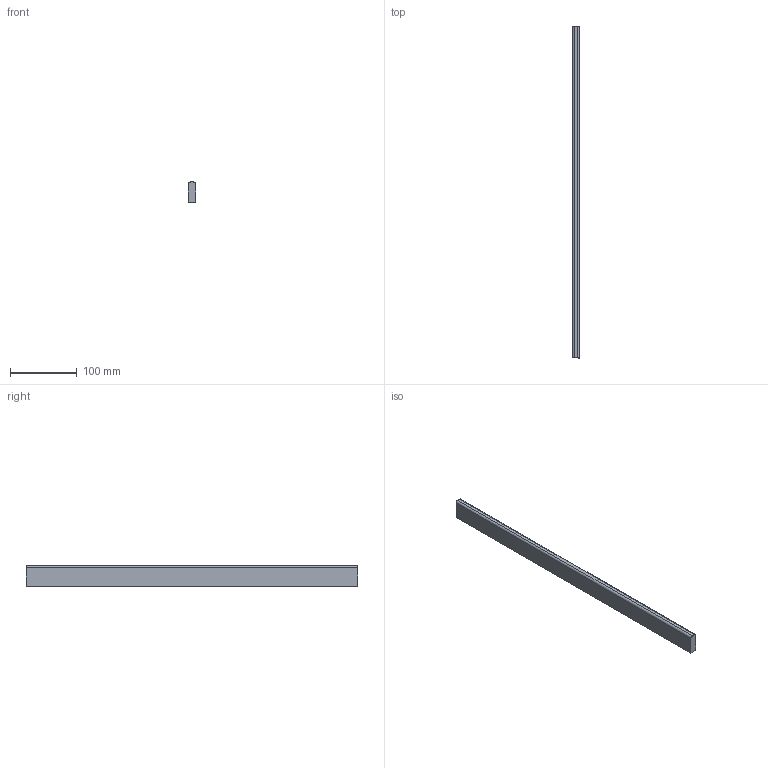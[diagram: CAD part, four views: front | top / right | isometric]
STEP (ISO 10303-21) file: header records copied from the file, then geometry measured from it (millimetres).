
FILE_DESCRIPTION (( 'STEP AP214' ), '1' );
FILE_NAME ('_Seitenreling_S610000200_RL497.step', '2010-09-06T14:51:21', ( 'grass' ), ( '' ), 'SwSTEP 2.0', 'SolidWorks 2010', '' );
FILE_SCHEMA (( 'AUTOMOTIVE_DESIGN' ));
Length unit declared in the file: millimetre
Products named in the file (1): _Seitenreling_S610000200_RL497
Bounding box: 10.5 x 497 x 30 mm (x, y, z)
Volume: 154635.2 mm3; surface area: 39599.4 mm2
Topology: 1 solids, 1 shells, 8 faces, 18 edges, 12 vertices
Faces by surface type: plane 6, cylinder 2
Entity records: 260 total; most frequent: DIRECTION 40, CARTESIAN_POINT 39, ORIENTED_EDGE 36, EDGE_CURVE 18, VECTOR 14, LINE 14, AXIS2_PLACEMENT_3D 13, VERTEX_POINT 12
